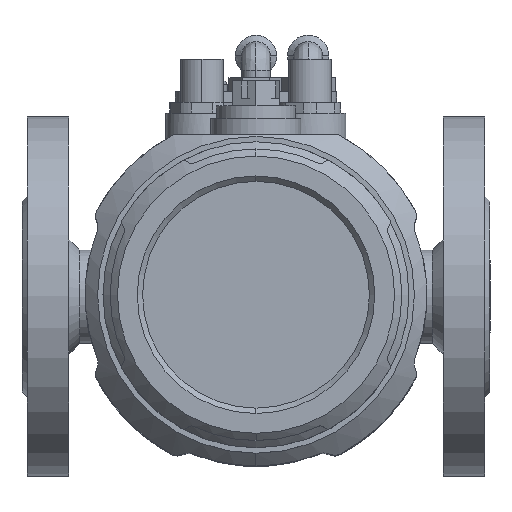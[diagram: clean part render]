
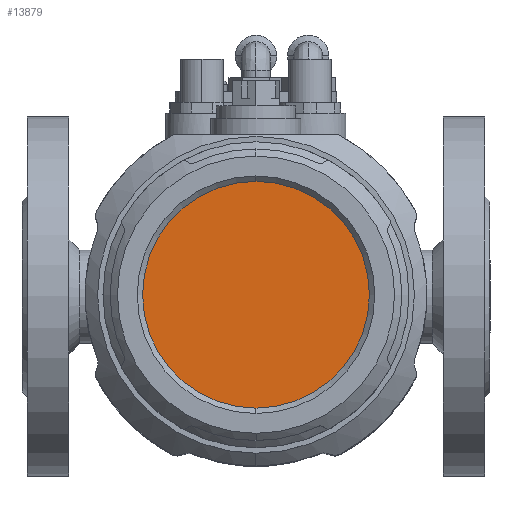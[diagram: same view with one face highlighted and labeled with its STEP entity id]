
A CAD part, top view. The second image highlights one B-rep face of the part: STEP entity #13879.
In plain terms, the highlighted planar face has unit normal (0, 0, 1) as drawn and (0, 1, 0) by its records, which use the part's own axes.
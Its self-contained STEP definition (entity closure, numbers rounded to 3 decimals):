
#9271=CARTESIAN_POINT('',(0.,20.,0.));
#9272=DIRECTION('',(0.,-1.,0.));
#9273=DIRECTION('',(-1.,0.,0.));
#9274=AXIS2_PLACEMENT_3D('',#9271,#9272,#9273);
#9276=CARTESIAN_POINT('',(0.,20.,0.));
#9277=DIRECTION('',(0.,-1.,0.));
#9278=DIRECTION('',(1.,0.,0.));
#9279=AXIS2_PLACEMENT_3D('',#9276,#9277,#9278);
#9297=CARTESIAN_POINT('',(-31.5,20.,0.));
#9298=CARTESIAN_POINT('',(31.5,20.,0.));
#9299=VERTEX_POINT('',#9297);
#9300=VERTEX_POINT('',#9298);
#13870=CARTESIAN_POINT('',(0.,20.,0.));
#13871=DIRECTION('',(0.,1.,0.));
#13872=DIRECTION('',(1.,0.,0.));
#13873=AXIS2_PLACEMENT_3D('',#13870,#13871,#13872);
#13874=PLANE('',#13873);
#13875=ORIENTED_EDGE('',*,*,#13850,.T.);
#13876=ORIENTED_EDGE('',*,*,#13864,.T.);
#13877=EDGE_LOOP('',(#13875,#13876));
#13878=FACE_OUTER_BOUND('',#13877,.F.);
#13879=ADVANCED_FACE('',(#13878),#13874,.T.);
#9275=CIRCLE('',#9274,31.5);
#9280=CIRCLE('',#9279,31.5);
#13850=EDGE_CURVE('',#9299,#9300,#9275,.T.);
#13864=EDGE_CURVE('',#9300,#9299,#9280,.T.);
